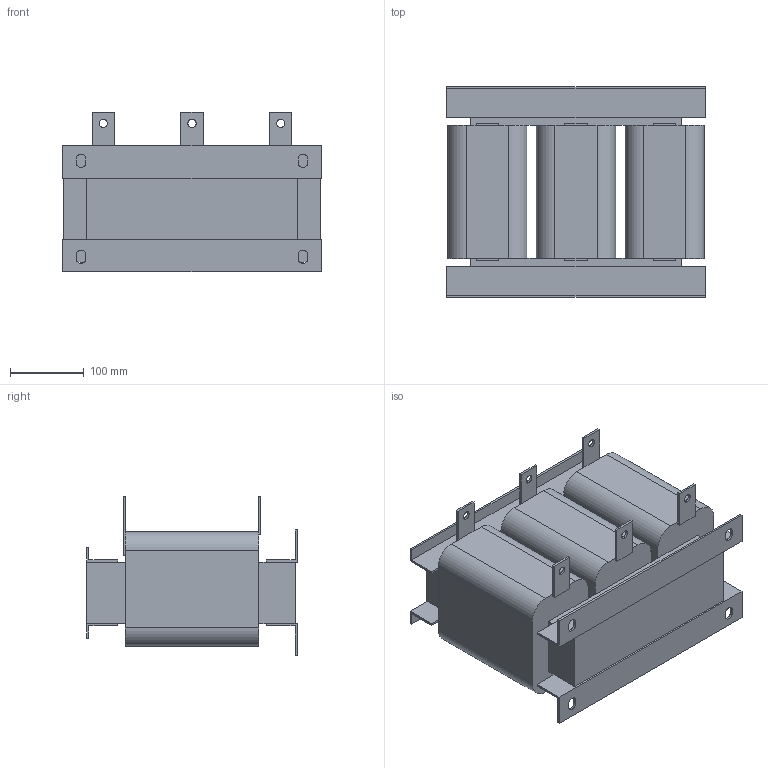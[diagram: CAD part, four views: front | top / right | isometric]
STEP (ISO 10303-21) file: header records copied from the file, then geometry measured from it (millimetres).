
FILE_DESCRIPTION(/* description */ (''),/* implementation_level */ '2;1');
FILE_NAME(/* name */ 'E:\Работа\Веда МК (Данфосс)\!Текущие задачи\2024.08.30 3D модели\Дроссели\ACO 1-проц 660 В\STP\ACO-C-0345-T6.stp',/* time_stamp */ '2024-11-01T15:17:14+04:00',/* author */ ('Александр (огранич)'),/* organization */ (''),/* preprocessor_version */ 'ST-DEVELOPER v18.1',/* originating_system */ 'Autodesk Inventor 2021',/* authorisation */ '');
FILE_SCHEMA (('AUTOMOTIVE_DESIGN { 1 0 10303 214 3 1 1 }'));
Length unit declared in the file: millimetre
Products named in the file (1): ACO-0015-T4-4
Bounding box: 350 x 285 x 215.5 mm (x, y, z)
Volume: 11431359.1 mm3; surface area: 622357.8 mm2
Topology: 3 solids, 3 shells, 136 faces, 373 edges, 239 vertices
Faces by surface type: plane 110, cylinder 26
Full cylindrical faces by diameter (mm): 11 x6
Entity records: 4327 total; most frequent: CARTESIAN_POINT 749, ORIENTED_EDGE 746, DIRECTION 702, EDGE_CURVE 373, LINE 318, VECTOR 318, VERTEX_POINT 239, AXIS2_PLACEMENT_3D 192
